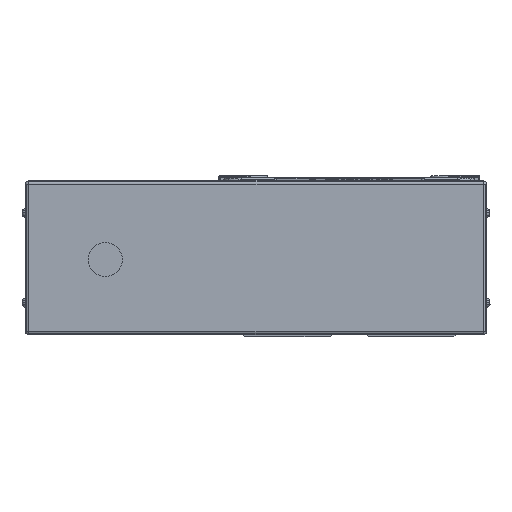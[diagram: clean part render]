
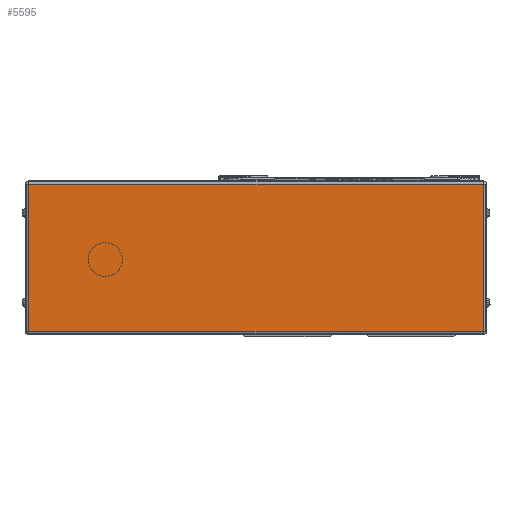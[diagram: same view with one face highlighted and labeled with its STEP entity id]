
A CAD part, left-side view. The second image highlights one B-rep face of the part: STEP entity #5595.
In plain terms, the highlighted planar face has unit normal (-1, 0, 0).
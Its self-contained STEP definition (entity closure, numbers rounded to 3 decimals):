
#5595=ADVANCED_FACE('',(#12942),#12943,.F.);
#12942=FACE_OUTER_BOUND('',#22956,.T.);
#12943=PLANE('',#22957);
#22956=EDGE_LOOP('',(#39141,#39142,#39143,#39144));
#22957=AXIS2_PLACEMENT_3D('',#39145,#39146,#39147);
#39141=ORIENTED_EDGE('',*,*,#61746,.T.);
#39142=ORIENTED_EDGE('',*,*,#61747,.T.);
#39143=ORIENTED_EDGE('',*,*,#61748,.T.);
#39144=ORIENTED_EDGE('',*,*,#61749,.T.);
#39145=CARTESIAN_POINT('',(-45.,180.5,0.));
#39146=DIRECTION('',(1.0,0.,0.));
#39147=DIRECTION('',(0.,0.,1.0));
#61746=EDGE_CURVE('',#75577,#75578,#75579,.T.);
#61747=EDGE_CURVE('',#75578,#75580,#75581,.T.);
#61748=EDGE_CURVE('',#75580,#75582,#75583,.T.);
#61749=EDGE_CURVE('',#75582,#75577,#75584,.T.);
#75577=VERTEX_POINT('',#94282);
#75578=VERTEX_POINT('',#94283);
#75579=LINE('',#94284,#94285);
#75580=VERTEX_POINT('',#94286);
#75581=LINE('',#94287,#94288);
#75582=VERTEX_POINT('',#94289);
#75583=LINE('',#94290,#94291);
#75584=LINE('',#94292,#94293);
#94282=CARTESIAN_POINT('',(-45.,178.5,41.));
#94283=CARTESIAN_POINT('',(-45.,178.5,-41.));
#94284=CARTESIAN_POINT('',(-45.,178.5,0.));
#94285=VECTOR('',#112015,10.0);
#94286=CARTESIAN_POINT('',(-45.,-74.5,-41.));
#94287=CARTESIAN_POINT('',(-45.,180.5,-41.));
#94288=VECTOR('',#112016,10.0);
#94289=CARTESIAN_POINT('',(-45.,-74.5,41.));
#94290=CARTESIAN_POINT('',(-45.,-74.5,0.));
#94291=VECTOR('',#112017,10.0);
#94292=CARTESIAN_POINT('',(-45.,180.5,41.));
#94293=VECTOR('',#112018,10.0);
#112015=DIRECTION('',(0.,0.,-1.0));
#112016=DIRECTION('',(0.,-1.0,0.));
#112017=DIRECTION('',(0.,0.,1.0));
#112018=DIRECTION('',(0.,1.0,0.));
